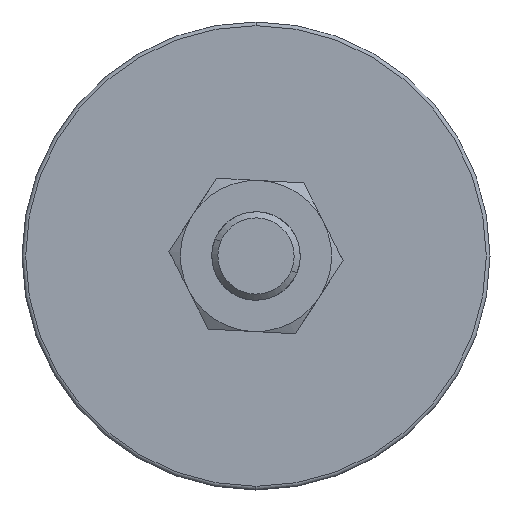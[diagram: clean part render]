
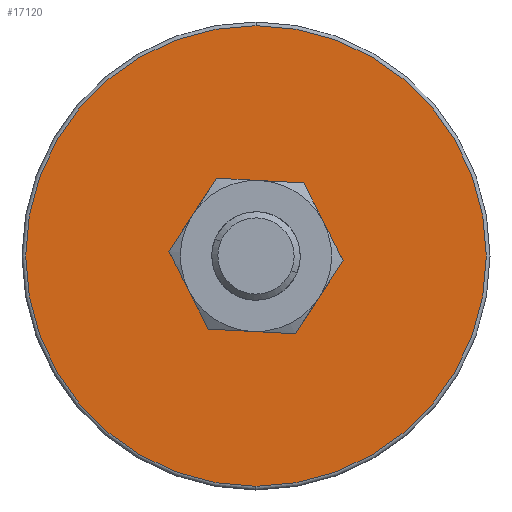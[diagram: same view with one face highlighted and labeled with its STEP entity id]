
A CAD part, left-side view. The second image highlights one B-rep face of the part: STEP entity #17120.
In plain terms, the highlighted planar face has unit normal (-1, 0, 0).
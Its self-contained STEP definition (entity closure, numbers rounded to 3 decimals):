
#414 = DIRECTION ( 'NONE',  ( 0., 0., 1. ) ) ;
#732 = AXIS2_PLACEMENT_3D ( 'NONE', #1027, #17136, #1084 ) ;
#942 = VERTEX_POINT ( 'NONE', #1195 ) ;
#1027 = CARTESIAN_POINT ( 'NONE',  ( 0., 0., 0. ) ) ;
#1084 = DIRECTION ( 'NONE',  ( 0., 0., 1. ) ) ;
#1195 = CARTESIAN_POINT ( 'NONE',  ( 0., 0., -62.5 ) ) ;
#1680 = EDGE_LOOP ( 'NONE', ( #14374, #17878 ) ) ;
#2134 = CARTESIAN_POINT ( 'NONE',  ( 0., 0., 0. ) ) ;
#2255 = PLANE ( 'NONE',  #5899 ) ;
#2540 = FACE_OUTER_BOUND ( 'NONE', #6918, .T. ) ;
#2579 = EDGE_CURVE ( 'NONE', #18917, #14082, #14864, .T. ) ;
#2990 = CARTESIAN_POINT ( 'NONE',  ( 0., 0., 62.5 ) ) ;
#5774 = AXIS2_PLACEMENT_3D ( 'NONE', #2134, #12391, #13863 ) ;
#5899 = AXIS2_PLACEMENT_3D ( 'NONE', #8077, #15347, #17094 ) ;
#6918 = EDGE_LOOP ( 'NONE', ( #18431, #16257 ) ) ;
#7363 = EDGE_CURVE ( 'NONE', #14082, #18917, #14984, .T. ) ;
#7523 = CARTESIAN_POINT ( 'NONE',  ( 0., 0., -20.5 ) ) ;
#7751 = CARTESIAN_POINT ( 'NONE',  ( 0., 0., 0. ) ) ;
#7779 = EDGE_CURVE ( 'NONE', #942, #10132, #14038, .T. ) ;
#8077 = CARTESIAN_POINT ( 'NONE',  ( 0., 0., 0. ) ) ;
#8998 = DIRECTION ( 'NONE',  ( 0., 0., 1. ) ) ;
#9627 = CARTESIAN_POINT ( 'NONE',  ( 0., 0., 20.5 ) ) ;
#10132 = VERTEX_POINT ( 'NONE', #2990 ) ;
#11295 = FACE_BOUND ( 'NONE', #1680, .T. ) ;
#12391 = DIRECTION ( 'NONE',  ( -1., 0., 0. ) ) ;
#13461 = DIRECTION ( 'NONE',  ( -1., 0., 0. ) ) ;
#13773 = AXIS2_PLACEMENT_3D ( 'NONE', #15013, #15213, #414 ) ;
#13863 = DIRECTION ( 'NONE',  ( 0., 0., 1. ) ) ;
#14038 = CIRCLE ( 'NONE', #13773, 62.5 ) ;
#14082 = VERTEX_POINT ( 'NONE', #9627 ) ;
#14374 = ORIENTED_EDGE ( 'NONE', *, *, #7363, .F. ) ;
#14864 = CIRCLE ( 'NONE', #732, 20.5 ) ;
#14984 = CIRCLE ( 'NONE', #5774, 20.5 ) ;
#15013 = CARTESIAN_POINT ( 'NONE',  ( 0., 0., 0. ) ) ;
#15213 = DIRECTION ( 'NONE',  ( -1., 0., 0. ) ) ;
#15347 = DIRECTION ( 'NONE',  ( 1., 0., 0. ) ) ;
#16257 = ORIENTED_EDGE ( 'NONE', *, *, #7779, .T. ) ;
#17094 = DIRECTION ( 'NONE',  ( 0., 0., -1. ) ) ;
#17120 = ADVANCED_FACE ( 'NONE', ( #11295, #2540 ), #2255, .F. ) ;
#17136 = DIRECTION ( 'NONE',  ( -1., 0., 0. ) ) ;
#17641 = AXIS2_PLACEMENT_3D ( 'NONE', #7751, #13461, #8998 ) ;
#17672 = EDGE_CURVE ( 'NONE', #10132, #942, #19074, .T. ) ;
#17878 = ORIENTED_EDGE ( 'NONE', *, *, #2579, .F. ) ;
#18431 = ORIENTED_EDGE ( 'NONE', *, *, #17672, .T. ) ;
#18917 = VERTEX_POINT ( 'NONE', #7523 ) ;
#19074 = CIRCLE ( 'NONE', #17641, 62.5 ) ;
